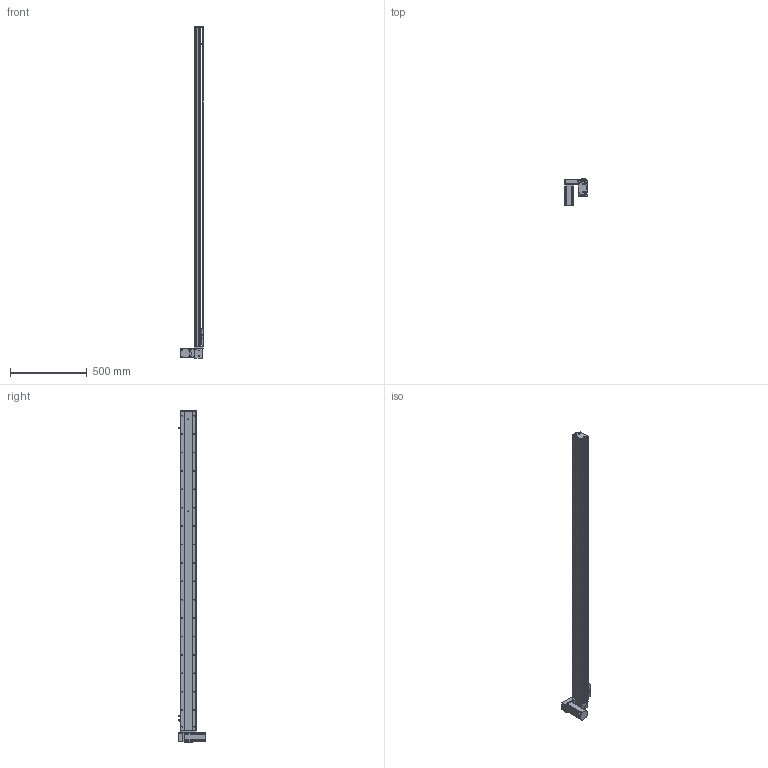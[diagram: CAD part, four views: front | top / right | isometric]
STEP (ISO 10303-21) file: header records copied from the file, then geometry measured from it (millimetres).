
FILE_DESCRIPTION (( 'STEP AP214' ), '1' );
FILE_NAME ('KSD100B-S1900-MLD-CM.STEP', '2019-08-31T07:17:26', ( '微软用户' ), ( '微软中国' ), 'SwSTEP 2.0', 'SolidWorks 2014', '' );
FILE_SCHEMA (( 'AUTOMOTIVE_DESIGN' ));
Length unit declared in the file: millimetre
Products named in the file (12): 悵誘欶奻狟殏; 100宽马达安装板连板上下折丝杆同步带; 台达ECMA－C20604AS伺服电机; U倰嫖萇EEㄜSX672; 覜茼え100遵圉猾敕; 100宽防尘板1900行程-同步带; 100宽马达安装板同步带左; 100宽同步带安装板半封闭; 100宽马达安装板同步带; 100遵傷啣肮祭湍; 100宽底板半封闭同步带1900行程; KSD100B-S1900-MLD-CM
Assembly tree (13 placements, depth 2):
  KSD100B-S1900-MLD-CM
    100宽底板半封闭同步带1900行程
    100遵傷啣肮祭湍
    100宽马达安装板同步带
    100宽同步带安装板半封闭
    100宽马达安装板同步带左
    100宽防尘板1900行程-同步带
    覜茼え100遵圉猾敕
    U倰嫖萇EEㄜSX672  x3
    台达ECMA－C20604AS伺服电机
    100宽马达安装板连板上下折丝杆同步带
    悵誘欶奻狟殏
Bounding box: 148 x 174.7 x 2165 mm (x, y, z)
Volume: 4447977.3 mm3; surface area: 1528780.9 mm2
Topology: 14 solids, 14 shells, 1733 faces, 4928 edges, 3097 vertices
Faces by surface type: cylinder 911, plane 623, cone 199
Entity records: 64157 total; most frequent: CARTESIAN_POINT 13982, DIRECTION 8616, ORIENTED_EDGE 8364, EDGE_CURVE 4182, AXIS2_PLACEMENT_3D 3181, VERTEX_POINT 2721, VECTOR 2254, LINE 2254
